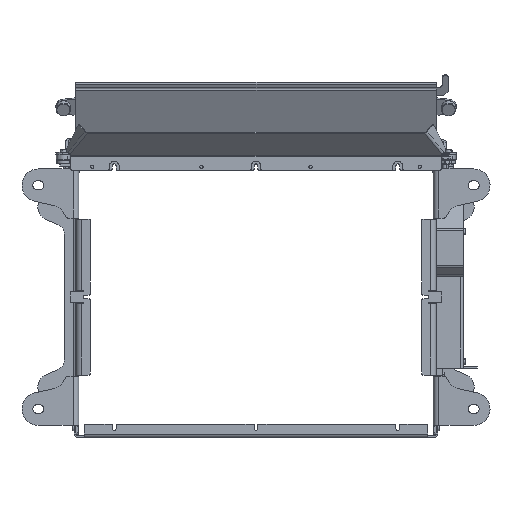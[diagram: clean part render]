
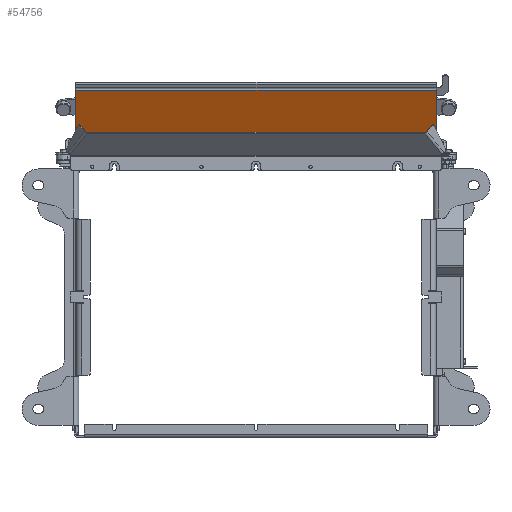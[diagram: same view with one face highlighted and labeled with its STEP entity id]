
A CAD part, front view. The second image highlights one B-rep face of the part: STEP entity #54756.
In plain terms, the highlighted planar face has unit normal (0, -0.882, -0.471).
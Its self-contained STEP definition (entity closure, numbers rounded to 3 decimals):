
#102 = ORIENTED_EDGE ( 'NONE', *, *, #50609, .T. ) ;
#2463 = DIRECTION ( 'NONE',  ( -1., 0., 0. ) ) ;
#4534 = VERTEX_POINT ( 'NONE', #9527 ) ;
#5200 = EDGE_CURVE ( 'NONE', #6460, #27503, #31982, .T. ) ;
#6460 = VERTEX_POINT ( 'NONE', #54366 ) ;
#6588 = FACE_OUTER_BOUND ( 'NONE', #45164, .T. ) ;
#7536 = CARTESIAN_POINT ( 'NONE',  ( -165., 64., 78.6 ) ) ;
#7907 = VECTOR ( 'NONE', #20855, 1000. ) ;
#9527 = CARTESIAN_POINT ( 'NONE',  ( -165., 98.588, 13.747 ) ) ;
#11531 = CARTESIAN_POINT ( 'NONE',  ( -165., 98.588, 13.747 ) ) ;
#11922 = LINE ( 'NONE', #28671, #35980 ) ;
#12032 = LINE ( 'NONE', #7536, #52362 ) ;
#20855 = DIRECTION ( 'NONE',  ( 0., -0.471, 0.882 ) ) ;
#23408 = LINE ( 'NONE', #11531, #57421 ) ;
#23553 = AXIS2_PLACEMENT_3D ( 'NONE', #47709, #29702, #2463 ) ;
#25012 = CARTESIAN_POINT ( 'NONE',  ( 165., 64., 78.6 ) ) ;
#25221 = ORIENTED_EDGE ( 'NONE', *, *, #41283, .T. ) ;
#27503 = VERTEX_POINT ( 'NONE', #58417 ) ;
#28671 = CARTESIAN_POINT ( 'NONE',  ( 165., 66.824, 73.306 ) ) ;
#29702 = DIRECTION ( 'NONE',  ( 0., -0.882, -0.471 ) ) ;
#31982 = LINE ( 'NONE', #25012, #7907 ) ;
#35980 = VECTOR ( 'NONE', #51626, 1000. ) ;
#36870 = EDGE_CURVE ( 'NONE', #4534, #6460, #23408, .T. ) ;
#36953 = VERTEX_POINT ( 'NONE', #57066 ) ;
#37484 = ORIENTED_EDGE ( 'NONE', *, *, #36870, .T. ) ;
#41283 = EDGE_CURVE ( 'NONE', #36953, #4534, #12032, .T. ) ;
#42804 = DIRECTION ( 'NONE',  ( 1., 0., 0. ) ) ;
#43774 = DIRECTION ( 'NONE',  ( 0., 0.471, -0.882 ) ) ;
#45164 = EDGE_LOOP ( 'NONE', ( #102, #25221, #37484, #50322 ) ) ;
#47709 = CARTESIAN_POINT ( 'NONE',  ( 0., 81.294, 46.174 ) ) ;
#50322 = ORIENTED_EDGE ( 'NONE', *, *, #5200, .T. ) ;
#50609 = EDGE_CURVE ( 'NONE', #27503, #36953, #11922, .T. ) ;
#51626 = DIRECTION ( 'NONE',  ( -1., 0., 0. ) ) ;
#52074 = PLANE ( 'NONE',  #23553 ) ;
#52362 = VECTOR ( 'NONE', #43774, 1000. ) ;
#54366 = CARTESIAN_POINT ( 'NONE',  ( 165., 98.588, 13.747 ) ) ;
#54756 = ADVANCED_FACE ( 'NONE', ( #6588 ), #52074, .T. ) ;
#57066 = CARTESIAN_POINT ( 'NONE',  ( -165., 66.824, 73.306 ) ) ;
#57421 = VECTOR ( 'NONE', #42804, 1000. ) ;
#58417 = CARTESIAN_POINT ( 'NONE',  ( 165., 66.824, 73.306 ) ) ;
